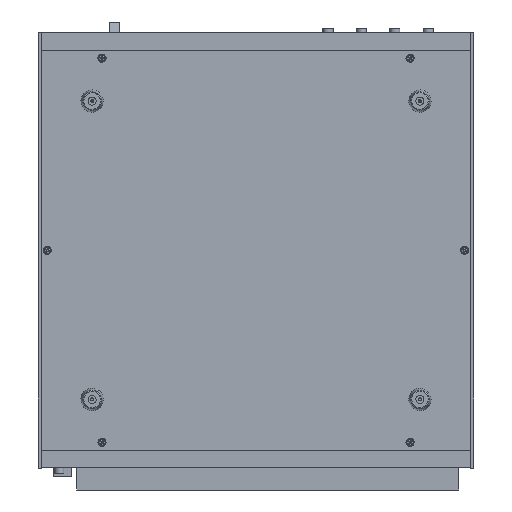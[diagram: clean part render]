
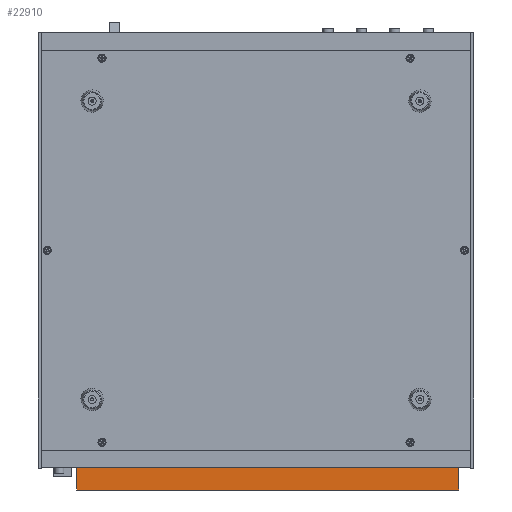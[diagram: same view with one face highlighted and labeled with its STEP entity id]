
A CAD part, front view. The second image highlights one B-rep face of the part: STEP entity #22910.
In plain terms, the highlighted planar face has unit normal (0, -1, 0).
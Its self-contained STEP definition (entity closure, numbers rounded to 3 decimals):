
#935 = VERTEX_POINT ( 'NONE', #1997 ) ;
#1501 = EDGE_LOOP ( 'NONE', ( #4311, #42085, #30907, #18626 ) ) ;
#1997 = CARTESIAN_POINT ( 'NONE',  ( 219.749, 237.67, 377. ) ) ;
#2439 = CARTESIAN_POINT ( 'NONE',  ( 189.199, 237.67, 377. ) ) ;
#3370 = PLANE ( 'NONE',  #29525 ) ;
#4071 = EDGE_CURVE ( 'NONE', #31272, #935, #24050, .T. ) ;
#4311 = ORIENTED_EDGE ( 'NONE', *, *, #19441, .T. ) ;
#6700 = DIRECTION ( 'NONE',  ( 0., 1., 0. ) ) ;
#6725 = EDGE_CURVE ( 'NONE', #31272, #30827, #40417, .T. ) ;
#6838 = DIRECTION ( 'NONE',  ( 0., 0., 1. ) ) ;
#7578 = DIRECTION ( 'NONE',  ( 0., 0., -1. ) ) ;
#9680 = LINE ( 'NONE', #30586, #40054 ) ;
#9989 = DIRECTION ( 'NONE',  ( 1., 0., 0. ) ) ;
#11467 = DIRECTION ( 'NONE',  ( 1., 0., 0. ) ) ;
#12816 = VECTOR ( 'NONE', #9989, 1000. ) ;
#14544 = CARTESIAN_POINT ( 'NONE',  ( 189.199, 237.67, 0. ) ) ;
#18490 = VECTOR ( 'NONE', #11467, 1000. ) ;
#18626 = ORIENTED_EDGE ( 'NONE', *, *, #6725, .T. ) ;
#19441 = EDGE_CURVE ( 'NONE', #30827, #24201, #37953, .T. ) ;
#20334 = DIRECTION ( 'NONE',  ( 0., 0., -1. ) ) ;
#22910 = ADVANCED_FACE ( 'NONE', ( #35845 ), #3370, .F. ) ;
#24050 = LINE ( 'NONE', #42911, #12816 ) ;
#24201 = VERTEX_POINT ( 'NONE', #40660 ) ;
#26785 = CARTESIAN_POINT ( 'NONE',  ( 189.199, 237.67, 377. ) ) ;
#27987 = EDGE_CURVE ( 'NONE', #935, #24201, #9680, .T. ) ;
#29525 = AXIS2_PLACEMENT_3D ( 'NONE', #26785, #6700, #6838 ) ;
#30586 = CARTESIAN_POINT ( 'NONE',  ( 219.749, 237.67, 377. ) ) ;
#30827 = VERTEX_POINT ( 'NONE', #43267 ) ;
#30907 = ORIENTED_EDGE ( 'NONE', *, *, #4071, .F. ) ;
#31272 = VERTEX_POINT ( 'NONE', #2439 ) ;
#32610 = VECTOR ( 'NONE', #7578, 1000. ) ;
#34819 = CARTESIAN_POINT ( 'NONE',  ( 189.199, 237.67, 377. ) ) ;
#35845 = FACE_OUTER_BOUND ( 'NONE', #1501, .T. ) ;
#37953 = LINE ( 'NONE', #14544, #18490 ) ;
#40054 = VECTOR ( 'NONE', #20334, 1000. ) ;
#40417 = LINE ( 'NONE', #34819, #32610 ) ;
#40660 = CARTESIAN_POINT ( 'NONE',  ( 219.749, 237.67, 0. ) ) ;
#42085 = ORIENTED_EDGE ( 'NONE', *, *, #27987, .F. ) ;
#42911 = CARTESIAN_POINT ( 'NONE',  ( 189.199, 237.67, 377. ) ) ;
#43267 = CARTESIAN_POINT ( 'NONE',  ( 189.199, 237.67, 0. ) ) ;
